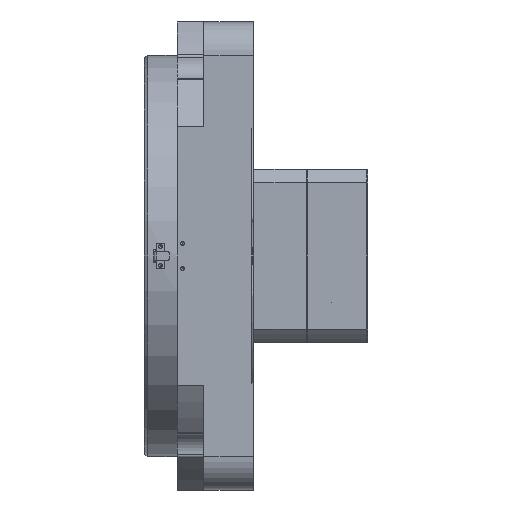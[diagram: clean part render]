
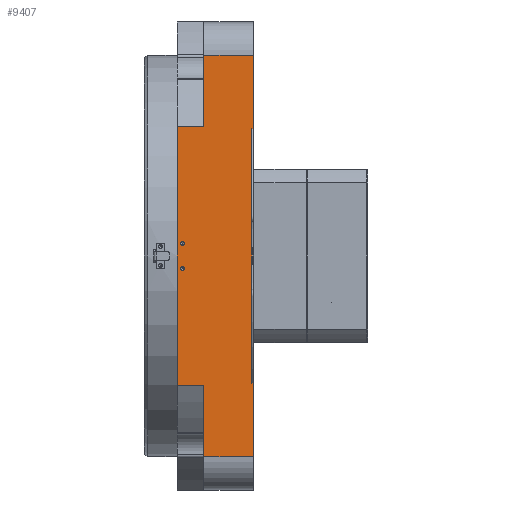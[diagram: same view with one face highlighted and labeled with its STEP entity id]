
A CAD part, left-side view. The second image highlights one B-rep face of the part: STEP entity #9407.
In plain terms, the highlighted planar face has unit normal (-1, 0, 0) as drawn and (0, 0, -1) by its records, which use the part's own axes.
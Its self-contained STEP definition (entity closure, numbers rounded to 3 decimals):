
#276=PLANE('',#10177);
#581=LINE('',#14414,#1263);
#653=LINE('',#14692,#1335);
#654=LINE('',#14695,#1336);
#655=LINE('',#14697,#1337);
#656=LINE('',#14699,#1338);
#657=LINE('',#14701,#1339);
#658=LINE('',#14703,#1340);
#659=LINE('',#14704,#1341);
#660=LINE('',#14706,#1342);
#661=LINE('',#14708,#1343);
#662=LINE('',#14710,#1344);
#663=LINE('',#14712,#1345);
#1263=VECTOR('',#11369,1000.);
#1335=VECTOR('',#11575,1000.);
#1336=VECTOR('',#11576,1000.);
#1337=VECTOR('',#11577,1000.);
#1338=VECTOR('',#11578,1000.);
#1339=VECTOR('',#11579,1000.);
#1340=VECTOR('',#11580,1000.);
#1341=VECTOR('',#11581,1000.);
#1342=VECTOR('',#11582,1000.);
#1343=VECTOR('',#11583,1000.);
#1344=VECTOR('',#11584,1000.);
#1345=VECTOR('',#11585,1000.);
#2140=ORIENTED_EDGE('',*,*,#4778,.F.);
#2141=ORIENTED_EDGE('',*,*,#4779,.F.);
#2142=ORIENTED_EDGE('',*,*,#4780,.F.);
#2143=ORIENTED_EDGE('',*,*,#4781,.T.);
#2144=ORIENTED_EDGE('',*,*,#4782,.F.);
#2145=ORIENTED_EDGE('',*,*,#4783,.T.);
#2146=ORIENTED_EDGE('',*,*,#4784,.T.);
#2147=ORIENTED_EDGE('',*,*,#4785,.F.);
#2148=ORIENTED_EDGE('',*,*,#4647,.T.);
#2149=ORIENTED_EDGE('',*,*,#4786,.F.);
#2150=ORIENTED_EDGE('',*,*,#4787,.T.);
#2151=ORIENTED_EDGE('',*,*,#4788,.F.);
#2152=ORIENTED_EDGE('',*,*,#4789,.F.);
#2153=ORIENTED_EDGE('',*,*,#4790,.T.);
#4647=EDGE_CURVE('',#5973,#5972,#581,.T.);
#4778=EDGE_CURVE('',#6088,#6088,#6964,.T.);
#4779=EDGE_CURVE('',#6089,#6089,#6965,.T.);
#4780=EDGE_CURVE('',#6090,#6091,#653,.T.);
#4781=EDGE_CURVE('',#6090,#6092,#654,.T.);
#4782=EDGE_CURVE('',#6093,#6092,#655,.T.);
#4783=EDGE_CURVE('',#6093,#6094,#656,.T.);
#4784=EDGE_CURVE('',#6094,#6095,#657,.T.);
#4785=EDGE_CURVE('',#5973,#6095,#658,.T.);
#4786=EDGE_CURVE('',#6096,#5972,#659,.T.);
#4787=EDGE_CURVE('',#6096,#6097,#660,.T.);
#4788=EDGE_CURVE('',#6098,#6097,#661,.T.);
#4789=EDGE_CURVE('',#6099,#6098,#662,.T.);
#4790=EDGE_CURVE('',#6099,#6091,#663,.F.);
#5972=VERTEX_POINT('',#14413);
#5973=VERTEX_POINT('',#14415);
#6088=VERTEX_POINT('',#14689);
#6089=VERTEX_POINT('',#14691);
#6090=VERTEX_POINT('',#14693);
#6091=VERTEX_POINT('',#14694);
#6092=VERTEX_POINT('',#14696);
#6093=VERTEX_POINT('',#14698);
#6094=VERTEX_POINT('',#14700);
#6095=VERTEX_POINT('',#14702);
#6096=VERTEX_POINT('',#14705);
#6097=VERTEX_POINT('',#14707);
#6098=VERTEX_POINT('',#14709);
#6099=VERTEX_POINT('',#14711);
#6964=CIRCLE('',#10178,1.5);
#6965=CIRCLE('',#10179,1.5);
#7424=EDGE_LOOP('',(#2140));
#7425=EDGE_LOOP('',(#2141));
#7426=EDGE_LOOP('',(#2142,#2143,#2144,#2145,#2146,#2147,#2148,#2149,#2150,
#2151,#2152,#2153));
#8293=FACE_BOUND('',#7424,.T.);
#8294=FACE_BOUND('',#7425,.T.);
#8295=FACE_BOUND('',#7426,.T.);
#9407=ADVANCED_FACE('',(#8293,#8294,#8295),#276,.F.);
#10177=AXIS2_PLACEMENT_3D('',#14687,#11569,#11570);
#10178=AXIS2_PLACEMENT_3D('',#14688,#11571,#11572);
#10179=AXIS2_PLACEMENT_3D('',#14690,#11573,#11574);
#11369=DIRECTION('',(-1.,0.,0.));
#11569=DIRECTION('',(0.,0.,1.));
#11570=DIRECTION('',(1.,0.,0.));
#11571=DIRECTION('',(0.,0.,-1.));
#11572=DIRECTION('',(-1.,0.,0.));
#11573=DIRECTION('',(0.,0.,-1.));
#11574=DIRECTION('',(-1.,0.,0.));
#11575=DIRECTION('',(-1.,0.,0.));
#11576=DIRECTION('',(0.,-1.,0.));
#11577=DIRECTION('',(-1.,0.,0.));
#11578=DIRECTION('',(0.,-1.,0.));
#11579=DIRECTION('',(-1.,0.,0.));
#11580=DIRECTION('',(0.,-1.,0.));
#11581=DIRECTION('',(0.,1.,0.));
#11582=DIRECTION('',(-1.,0.,0.));
#11583=DIRECTION('',(0.,-1.,0.));
#11584=DIRECTION('',(-1.,0.,0.));
#11585=DIRECTION('',(0.,-1.,0.));
#14413=CARTESIAN_POINT('',(-95.,1.,-175.));
#14414=CARTESIAN_POINT('',(150.,1.,-175.));
#14415=CARTESIAN_POINT('',(95.,1.,-175.));
#14687=CARTESIAN_POINT('',(150.,81.5,-175.));
#14688=CARTESIAN_POINT('',(-9.5,53.,-175.));
#14689=CARTESIAN_POINT('',(-11.,53.,-175.));
#14690=CARTESIAN_POINT('',(9.5,53.,-175.));
#14691=CARTESIAN_POINT('',(8.,53.,-175.));
#14692=CARTESIAN_POINT('',(150.,57.,-175.));
#14693=CARTESIAN_POINT('',(96.825,57.,-175.));
#14694=CARTESIAN_POINT('',(-96.825,57.,-175.));
#14695=CARTESIAN_POINT('',(96.825,81.5,-175.));
#14696=CARTESIAN_POINT('',(96.825,37.,-175.));
#14697=CARTESIAN_POINT('',(150.,37.,-175.));
#14698=CARTESIAN_POINT('',(150.,37.,-175.));
#14699=CARTESIAN_POINT('',(150.,81.5,-175.));
#14700=CARTESIAN_POINT('',(150.,0.,-175.));
#14701=CARTESIAN_POINT('',(150.,0.,-175.));
#14702=CARTESIAN_POINT('',(95.,0.,-175.));
#14703=CARTESIAN_POINT('',(95.,81.5,-175.));
#14704=CARTESIAN_POINT('',(-95.,81.5,-175.));
#14705=CARTESIAN_POINT('',(-95.,0.,-175.));
#14706=CARTESIAN_POINT('',(150.,0.,-175.));
#14707=CARTESIAN_POINT('',(-150.,0.,-175.));
#14708=CARTESIAN_POINT('',(-150.,81.5,-175.));
#14709=CARTESIAN_POINT('',(-150.,37.,-175.));
#14710=CARTESIAN_POINT('',(150.,37.,-175.));
#14711=CARTESIAN_POINT('',(-96.825,37.,-175.));
#14712=CARTESIAN_POINT('',(-96.825,81.5,-175.));
